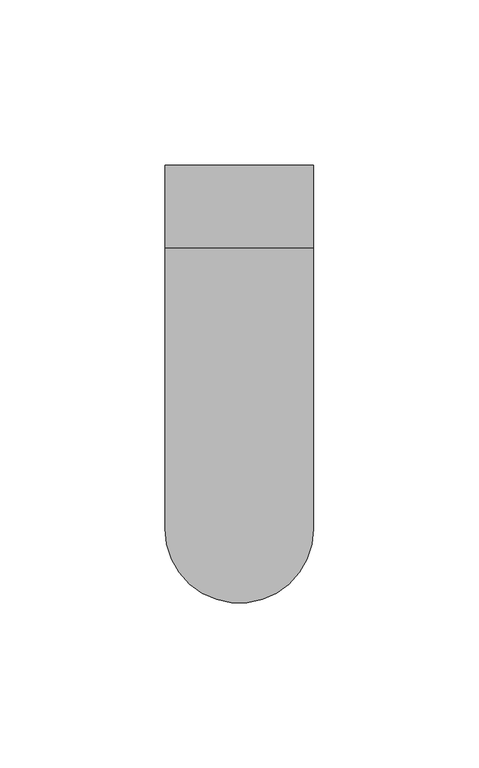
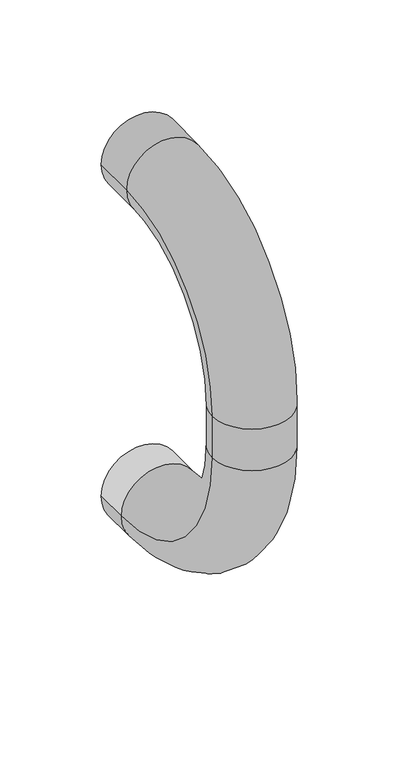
"""IFC4 building model written with IfcOpenShell, lengths in millimetres: proxy geometry, Terminaciones 4 : Terminaciones 1."""

import ifcopenshell
import ifcopenshell.guid

model = None  # the IFC model being written
_history = None  # IfcOwnerHistory: only IFC2X3 demands one
_inside = {}  # id of a spatial element -> (the spatial element, [elements in it])
_under = {}  # id of a project, library or spatial element -> (it, [spatial elements below it])
_declared = {}  # id of a project -> (the project, [libraries it declares])
_typed = {}  # id of a type object -> (the type object, [elements of that type])
_made_of = {}  # id of a material, layer set ... -> (it, [elements and type objects made of it])


def new_model(schema):
    """Start an empty IFC model of exactly this schema.

    Asked for "IFC4X3", IfcOpenShell would pick the latest addendum, in which some entities
    have other attributes; the version numbers below select the first issue.
    IFC2X3 requires an IfcOwnerHistory on every rooted entity: one is made here for all.
    """
    global model, _history
    if schema == "IFC4X3":
        model = ifcopenshell.file(schema_version=(4, 3, 0, 0))
    else:
        model = ifcopenshell.file(schema=schema)
    _inside.clear()
    _under.clear()
    _declared.clear()
    _typed.clear()
    _made_of.clear()
    _history = None
    if model.schema == "IFC2X3":
        org = make("IfcOrganization", Name="unknown")
        user = make(
            "IfcPersonAndOrganization",
            ThePerson=make("IfcPerson", FamilyName="unknown"),
            TheOrganization=org,
        )
        app = make(
            "IfcApplication",
            ApplicationDeveloper=org,
            Version="unknown",
            ApplicationFullName="unknown",
            ApplicationIdentifier="unknown",
        )
        _history = make(
            "IfcOwnerHistory",
            OwningUser=user,
            OwningApplication=app,
            ChangeAction="ADDED",
            CreationDate=0,
        )
    return model


def make(cls, **values):
    """One entity of the class cls with the attributes given. An attribute that is None is left unset."""
    return model.create_entity(
        cls, **{name: value for name, value in values.items() if value is not None}
    )


def rooted(cls, **values):
    """An entity with a GlobalId (a new one), such as an element, a storey or a relation."""
    return make(cls, GlobalId=ifcopenshell.guid.new(), OwnerHistory=_history, **values)


def si_unit(unit_type, name, prefix=None):
    """IfcSIUnit, for example si_unit("LENGTHUNIT", "METRE", prefix="MILLI")."""
    return make("IfcSIUnit", UnitType=unit_type, Prefix=prefix, Name=name)


def assignment(units):
    """IfcUnitAssignment: the units of a project."""
    return None if units is None else make("IfcUnitAssignment", Units=units)


def point(xyz):
    """IfcCartesianPoint."""
    return None if xyz is None else make("IfcCartesianPoint", Coordinates=xyz)


def direction(xyz):
    """IfcDirection."""
    return None if xyz is None else make("IfcDirection", DirectionRatios=xyz)


def frame(location, z_axis=None, x_axis=None):
    """IfcAxis2Placement3D, a coordinate frame: its origin and axes. An axis left out is left unset."""
    return make(
        "IfcAxis2Placement3D",
        Location=point(location),
        Axis=direction(z_axis),
        RefDirection=direction(x_axis),
    )


def origin():
    """The frame at (0, 0, 0) with its axes left unset."""
    return frame((0.0, 0.0, 0.0))


def place(relative_to, where):
    """IfcLocalPlacement: puts the frame where relative to a parent placement (None: the world)."""
    return make(
        "IfcLocalPlacement", PlacementRelTo=relative_to, RelativePlacement=where
    )


def context(
    kind, dimensions, precision=None, world=None, true_north=None, identifier=None
):
    """IfcGeometricRepresentationContext, for example the 3D "Model" context."""
    return make(
        "IfcGeometricRepresentationContext",
        ContextIdentifier=identifier,
        ContextType=kind,
        CoordinateSpaceDimension=dimensions,
        Precision=precision,
        WorldCoordinateSystem=world,
        TrueNorth=true_north,
    )


def project(units=None, contexts=None):
    """IfcProject with its units and contexts."""
    return rooted(
        "IfcProject",
        Name="project",
        RepresentationContexts=contexts,
        UnitsInContext=assignment(units),
    )


def spatial(cls, under=None, at=None, **own):
    """A site, building, storey or space (cls), placed at a placement, below another one or the project."""
    s = rooted(cls, ObjectPlacement=at, **own)
    if under is not None:
        _under.setdefault(under.id(), (under, []))[1].append(s)
    return s


def circle_curve(where, radius):
    """IfcCircle in the frame where."""
    return make("IfcCircle", Position=where, Radius=radius)


def ellipse_curve(where, semi_axis1, semi_axis2):
    """IfcEllipse in the frame where."""
    return make(
        "IfcEllipse", Position=where, SemiAxis1=semi_axis1, SemiAxis2=semi_axis2
    )


def trimmed(basis, trim1, trim2, sense, master):
    """IfcTrimmedCurve: the piece of a basis curve between two trims."""
    return make(
        "IfcTrimmedCurve",
        BasisCurve=basis,
        Trim1=trim1,
        Trim2=trim2,
        SenseAgreement=sense,
        MasterRepresentation=master,
    )


def shape(context_of_items, identifier, shape_type, items):
    """IfcShapeRepresentation: the items that make up one representation, for example the "Body"."""
    return make(
        "IfcShapeRepresentation",
        ContextOfItems=context_of_items,
        RepresentationIdentifier=identifier,
        RepresentationType=shape_type,
        Items=items,
    )


def source(mapping_origin, context_of_items, identifier, shape_type, items):
    """IfcRepresentationMap: a shape defined once, which mapped items show again and again."""
    return make(
        "IfcRepresentationMap",
        MappingOrigin=mapping_origin,
        MappedRepresentation=shape(context_of_items, identifier, shape_type, items),
    )


def transform(
    local_origin,
    x_axis=None,
    y_axis=None,
    z_axis=None,
    scale=None,
    scale2=None,
    scale3=None,
    uniform=True,
):
    """IfcCartesianTransformationOperator3D, or its non-uniform kind. x_axis, y_axis, z_axis: its Axis1, 2, 3."""
    if uniform:
        return make(
            "IfcCartesianTransformationOperator3D",
            Axis1=direction(x_axis),
            Axis2=direction(y_axis),
            LocalOrigin=point(local_origin),
            Scale=scale,
            Axis3=direction(z_axis),
        )
    return make(
        "IfcCartesianTransformationOperator3DnonUniform",
        Axis1=direction(x_axis),
        Axis2=direction(y_axis),
        LocalOrigin=point(local_origin),
        Scale=scale,
        Axis3=direction(z_axis),
        Scale2=scale2,
        Scale3=scale3,
    )


def mapped(mapping_source, mapping_target):
    """IfcMappedItem: shows the shape of a source again, moved by a transform."""
    return make(
        "IfcMappedItem", MappingSource=mapping_source, MappingTarget=mapping_target
    )


def made_of(thing, what):
    """Note that an element or type object is made of a material, layer set ...; save() writes the relation."""
    if what is not None:
        _made_of.setdefault(what.id(), (what, []))[1].append(thing)
    return thing


def element(
    cls,
    number,
    at=None,
    inside=None,
    cuts=None,
    type_object=None,
    material=None,
    context=None,
    identifier="Body",
    shape_type=None,
    held_by="IfcProductDefinitionShape",
    body=None,
    shapes=None,
    **own,
):
    """One element of the class cls, such as IfcWall. Its Tag is "e" and its number.

    at: its placement. inside: the storey or other place that contains it. cuts: it is an
    opening in that element (IfcRelVoidsElement). A single representation is given by context,
    identifier, shape_type and body (its items); several are given by shapes. held_by: the class
    of the entity that holds the representations. save() writes the other relations.
    """
    e = rooted(cls, Tag="e%d" % number, ObjectPlacement=at, **own)
    if body is not None:
        shapes = [shape(context, identifier, shape_type, body)]
    if shapes is not None:
        e.Representation = make(held_by, Representations=shapes)
    if inside is not None:
        _inside.setdefault(inside.id(), (inside, []))[1].append(e)
    if cuts is not None:
        rooted(
            "IfcRelVoidsElement", RelatingBuildingElement=cuts, RelatedOpeningElement=e
        )
    if type_object is not None:
        _typed.setdefault(type_object.id(), (type_object, []))[1].append(e)
    return made_of(e, material)


def aggregate(whole, parts):
    """IfcRelAggregates: a whole, such as a stair, and the parts it consists of."""
    return rooted("IfcRelAggregates", RelatingObject=whole, RelatedObjects=parts)


def save(model, path):
    """Write the relations noted so far, then the file.

    IfcRelAggregates (storeys below a building ...), IfcRelContainedInSpatialStructure (elements
    in a storey), IfcRelDefinesByType, IfcRelAssociatesMaterial and IfcRelDeclares: one each for
    every whole, place, type object, material and project.
    """
    for whole, parts in _under.values():
        aggregate(whole, parts)
    for where, things in _inside.values():
        rooted(
            "IfcRelContainedInSpatialStructure",
            RelatedElements=things,
            RelatingStructure=where,
        )
    for kind, things in _typed.values():
        rooted("IfcRelDefinesByType", RelatedObjects=things, RelatingType=kind)
    for what, things in _made_of.values():
        rooted("IfcRelAssociatesMaterial", RelatedObjects=things, RelatingMaterial=what)
    for by, libraries in _declared.values():
        rooted("IfcRelDeclares", RelatingContext=by, RelatedDefinitions=libraries)
    model.write(path)


def plane_surface(at):
    """IfcPlane: the flat surface through the origin of the frame at, square to its z axis."""
    return make("IfcPlane", Position=at)


def cylinder_surface(at, radius):
    """IfcCylindricalSurface: all points at the distance radius from the z axis of the frame at."""
    return make("IfcCylindricalSurface", Position=at, Radius=radius)


def revolved_surface(curve, axis_point, axis_direction):
    """IfcSurfaceOfRevolution: the curve turned about the line through axis_point along axis_direction."""
    return make(
        "IfcSurfaceOfRevolution",
        SweptCurve=make("IfcArbitraryOpenProfileDef", ProfileType="CURVE", Curve=curve),
        AxisPosition=make("IfcAxis1Placement", Location=point(axis_point), Axis=direction(axis_direction)),
    )


def advanced_brep(points, edges, surfaces, faces):
    """IfcAdvancedBrep: a solid bounded by faces that lie on surfaces and meet in shared edges.

    An edge is (start, end): straight between two places in points (the first is 0);
    or (start, end, curve); or (start, end, curve, False) where it runs against its curve.
    A face is (place in surfaces, loops), or (place, loops, False) where it looks against
    its surface's normal. A loop lists edges by number (the first is 1), with a minus sign
    where the edge is run from its end to its start. The first loop is the outer one.
    """
    corners = [point(p) for p in points]
    vertices = [make("IfcVertexPoint", VertexGeometry=c) for c in corners]
    made = []
    for start, end, *more in edges:
        made.append(
            make(
                "IfcEdgeCurve",
                EdgeStart=vertices[start],
                EdgeEnd=vertices[end],
                EdgeGeometry=more[0] if more else make("IfcPolyline", Points=[corners[start], corners[end]]),
                SameSense=more[1] if len(more) > 1 else True,
            )
        )
    hull = []
    for where, loops, *sense in faces:
        bounds = []
        for j, loop in enumerate(loops):
            ring = [make("IfcOrientedEdge", EdgeElement=made[abs(k) - 1], Orientation=k > 0) for k in loop]
            bounds.append(
                make(
                    "IfcFaceOuterBound" if j == 0 else "IfcFaceBound",
                    Bound=make("IfcEdgeLoop", EdgeList=ring),
                    Orientation=True,
                )
            )
        hull.append(make("IfcAdvancedFace", Bounds=bounds, FaceSurface=surfaces[where], SameSense=sense[0] if sense else True))
    return make("IfcAdvancedBrep", Outer=make("IfcClosedShell", CfsFaces=hull))


def building_element_proxy_42baf547(model_context):
    return source(origin(), model_context, "Body", "AdvancedBrep", [
        advanced_brep(
        [(15677.3126262, -744.3687272, 677.5), (15722.3126262, -744.3687272, 677.5), (15677.3126262, -769.3687272, 677.5), (15722.3126262, -769.3687272, 677.5), (15722.3126262, -854.3687272, 592.5), (15677.3126262, -854.3687272, 592.5), (15677.3126262, -854.3687272, 567.5), (15722.3126262, -854.3687272, 567.5), (15722.3126262, -764.3687272, 477.5), (15677.3126262, -764.3687272, 477.5), (15677.3126262, -744.3687272, 477.5), (15722.3126262, -744.3687272, 477.5)],
        [
            (0, 1, circle_curve(frame((15699.8126262, -744.3687272, 677.5), z_axis=(0.0, 1.0, 0.0), x_axis=(1.0, 0.0, 0.0)), 22.5)),
            (1, 0, circle_curve(frame((15699.8126262, -744.3687272, 677.5), z_axis=(0.0, 1.0, 0.0), x_axis=(1.0, 0.0, 0.0)), 22.5)),
            (0, 2),
            (2, 3, circle_curve(frame((15699.8126262, -769.3687272, 677.5), z_axis=(0.0, 1.0, 0.0), x_axis=(1.0, 0.0, 0.0)), 22.5)),
            (3, 1),
            (3, 2, circle_curve(frame((15699.8126262, -769.3687272, 677.5), z_axis=(0.0, 1.0, 0.0), x_axis=(1.0, 0.0, 0.0)), 22.5)),
            (4, 3, circle_curve(frame((15722.3126262, -769.3687272, 592.5), z_axis=(-1.0, 0.0, 0.0), x_axis=(0.0, 0.0, 1.0)), 85.0)),
            (2, 5, circle_curve(frame((15677.3126262, -769.3687272, 592.5), z_axis=(1.0, 0.0, 0.0), x_axis=(0.0, 0.0, 1.0)), 85.0)),
            (5, 4, circle_curve(frame((15699.8126262, -854.3687272, 592.5), z_axis=(0.0, 0.0, 1.0), x_axis=(1.0, 0.0, 0.0)), 22.5)),
            (4, 5, circle_curve(frame((15699.8126262, -854.3687272, 592.5), z_axis=(0.0, 0.0, 1.0), x_axis=(1.0, 0.0, 0.0)), 22.5)),
            (5, 6),
            (6, 7, circle_curve(frame((15699.8126262, -854.3687272, 567.5), z_axis=(0.0, 0.0, 1.0), x_axis=(1.0, 0.0, 0.0)), 22.5)),
            (7, 4),
            (7, 6, circle_curve(frame((15699.8126262, -854.3687272, 567.5), z_axis=(0.0, 0.0, 1.0), x_axis=(1.0, 0.0, 0.0)), 22.5)),
            (8, 7, circle_curve(frame((15722.3126262, -764.3687272, 567.5), z_axis=(-1.0, 0.0, 0.0), x_axis=(0.0, -1.0, 0.0)), 90.0)),
            (6, 9, circle_curve(frame((15677.3126262, -764.3687272, 567.5), z_axis=(1.0, 0.0, 0.0), x_axis=(0.0, -1.0, 0.0)), 90.0)),
            (9, 8, circle_curve(frame((15699.8126262, -764.3687272, 477.5), z_axis=(0.0, -1.0, 0.0), x_axis=(1.0, 0.0, 0.0)), 22.5)),
            (8, 9, circle_curve(frame((15699.8126262, -764.3687272, 477.5), z_axis=(0.0, -1.0, 0.0), x_axis=(1.0, 0.0, 0.0)), 22.5)),
            (10, 11, circle_curve(frame((15699.8126262, -744.3687272, 477.5), z_axis=(0.0, 1.0, 0.0), x_axis=(1.0, 0.0, 0.0)), 22.5)),
            (11, 10, circle_curve(frame((15699.8126262, -744.3687272, 477.5), z_axis=(0.0, 1.0, 0.0), x_axis=(1.0, 0.0, 0.0)), 22.5)),
            (9, 10),
            (11, 8),
        ],
        [
            plane_surface(frame((15699.8126262, -744.3687272, 677.5), z_axis=(0.0, 1.0, 0.0), x_axis=(1.0, 0.0, 0.0))),
            cylinder_surface(frame((15699.8126262, -744.3687272, 677.5), z_axis=(0.0, 1.0, 0.0), x_axis=(1.0, 0.0, 0.0)), 22.5),
            revolved_surface(trimmed(ellipse_curve(frame((15699.8126262, -769.3687272, 677.5), z_axis=(0.0, 1.0, 0.0), x_axis=(1.0, 0.0, 0.0)), 22.5, 22.5), [point((15677.3126262, -769.3687272, 677.5))], [point((15722.3126262, -769.3687272, 677.5))], True, "CARTESIAN"), (15699.8126262, -769.3687272, 592.5), (1.0, 0.0, 0.0)),
            revolved_surface(trimmed(ellipse_curve(frame((15699.8126262, -769.3687272, 677.5), z_axis=(0.0, 1.0, 0.0), x_axis=(1.0, 0.0, 0.0)), 22.5, 22.5), [point((15722.3126262, -769.3687272, 677.5))], [point((15677.3126262, -769.3687272, 677.5))], True, "CARTESIAN"), (15699.8126262, -769.3687272, 592.5), (1.0, 0.0, 0.0)),
            cylinder_surface(frame((15699.8126262, -854.3687272, 592.5), z_axis=(0.0, 0.0, 1.0), x_axis=(1.0, 0.0, 0.0)), 22.5),
            revolved_surface(trimmed(ellipse_curve(frame((15699.8126262, -854.3687272, 567.5), z_axis=(0.0, 0.0, 1.0), x_axis=(1.0, 0.0, 0.0)), 22.5, 22.5), [point((15677.3126262, -854.3687272, 567.5))], [point((15722.3126262, -854.3687272, 567.5))], True, "CARTESIAN"), (15699.8126262, -764.3687272, 567.5), (1.0, 0.0, 0.0)),
            revolved_surface(trimmed(ellipse_curve(frame((15699.8126262, -854.3687272, 567.5), z_axis=(0.0, 0.0, 1.0), x_axis=(1.0, 0.0, 0.0)), 22.5, 22.5), [point((15722.3126262, -854.3687272, 567.5))], [point((15677.3126262, -854.3687272, 567.5))], True, "CARTESIAN"), (15699.8126262, -764.3687272, 567.5), (1.0, 0.0, 0.0)),
            plane_surface(frame((15699.8126262, -744.3687272, 477.5), z_axis=(0.0, 1.0, 0.0), x_axis=(1.0, 0.0, 0.0))),
            cylinder_surface(frame((15699.8126262, -764.3687272, 477.5), z_axis=(0.0, -1.0, 0.0), x_axis=(1.0, 0.0, 0.0)), 22.5),
        ],
        [
            (0, [[1, 2]]),
            (1, [[-1, 3, 4, 5]]),
            (1, [[-2, -5, 6, -3]]),
            (2, [[7, -4, 8, 9]]),
            (3, [[-8, -6, -7, 10]]),
            (4, [[-9, 11, 12, 13]]),
            (4, [[-10, -13, 14, -11]]),
            (5, [[15, -12, 16, 17]]),
            (6, [[-16, -14, -15, 18]]),
            (7, [[19, 20]]),
            (8, [[-17, 21, -20, 22]]),
            (8, [[-18, -22, -19, -21]]),
        ],
    ),
    ])


if __name__ == "__main__":
    model = new_model("IFC4")
    model_context = context("Model", 3, world=origin())
    ifc_project = project(units=[si_unit("LENGTHUNIT", "METRE", prefix="MILLI")], contexts=[model_context])
    site = spatial("IfcSite", under=ifc_project)
    building = spatial("IfcBuilding", under=site)
    placement = place(None, origin())
    building_element_proxy_shape = building_element_proxy_42baf547(model_context)
    element("IfcBuildingElementProxy", 1, Name="Terminaciones 4 : Terminaciones 1", ObjectType="Terminaciones 4 : Terminaciones 1", at=placement, inside=building, context=model_context, shape_type="MappedRepresentation", body=[
        mapped(building_element_proxy_shape, transform((0.0, 0.0, 0.0), x_axis=(1.0, 0.0, 0.0), y_axis=(0.0, 1.0, 0.0), z_axis=(0.0, 0.0, 1.0))),
    ])
    save(model, "model.ifc")
